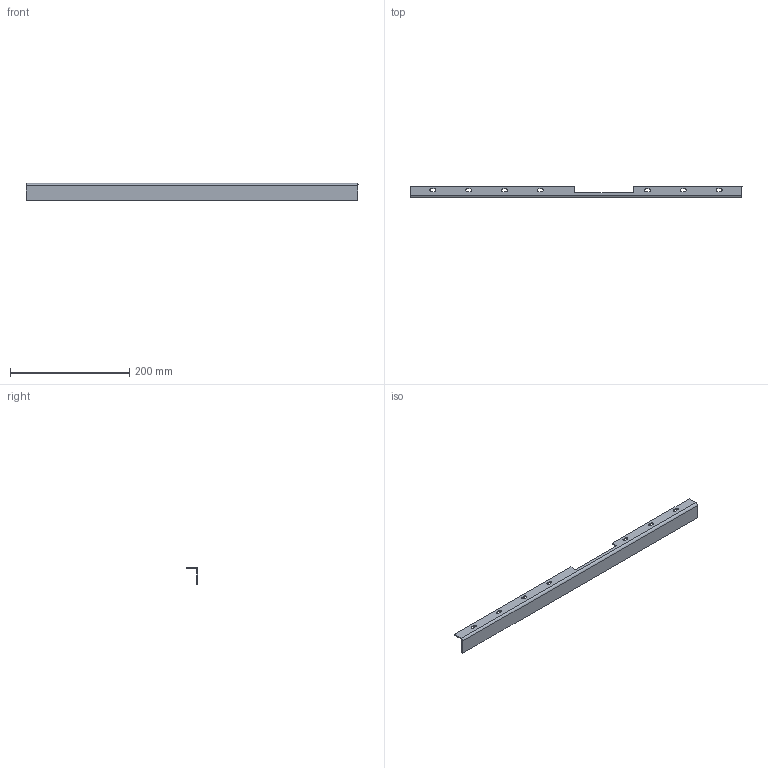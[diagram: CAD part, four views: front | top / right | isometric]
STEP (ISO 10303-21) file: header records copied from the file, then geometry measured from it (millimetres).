
FILE_DESCRIPTION (( 'STEP AP203' ), '1' );
FILE_NAME ('ORW-72.24.20.20.10.003 赶鎀鍧.STEP', '2025-10-13T13:18:55', ( '燴僽樥' ), ( '' ), 'SwSTEP 2.0', 'SolidWorks 2025', '' );
FILE_SCHEMA (( 'CONFIG_CONTROL_DESIGN' ));
Length unit declared in the file: millimetre
Products named in the file (1): ORW-72.24.20.20.10.003 Уголок_-01
Bounding box: 557 x 20 x 29 mm (x, y, z)
Volume: 48142.7 mm3; surface area: 50957.5 mm2
Topology: 1 solids, 1 shells, 46 faces, 124 edges, 80 vertices
Faces by surface type: plane 30, cylinder 16
Entity records: 1539 total; most frequent: CARTESIAN_POINT 251, DIRECTION 250, ORIENTED_EDGE 248, EDGE_CURVE 124, VECTOR 92, LINE 92, VERTEX_POINT 80, AXIS2_PLACEMENT_3D 79
